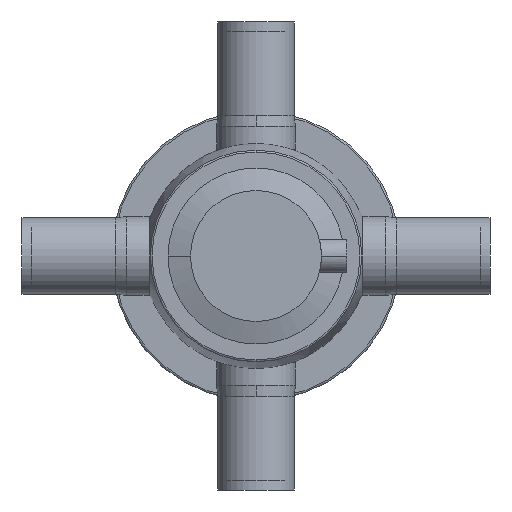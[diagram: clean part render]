
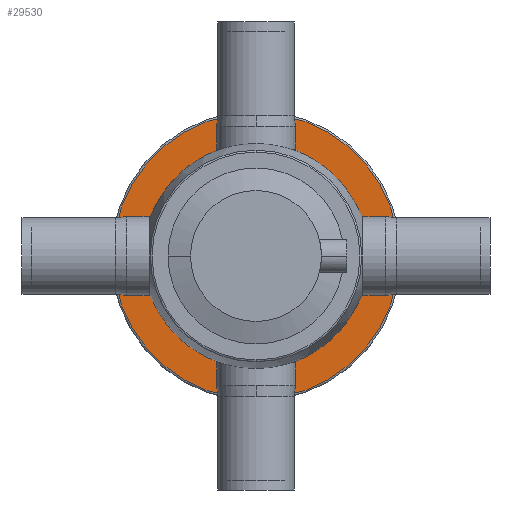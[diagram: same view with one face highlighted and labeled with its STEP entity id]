
A CAD part, front view. The second image highlights one B-rep face of the part: STEP entity #29530.
In plain terms, the highlighted planar face has unit normal (0, -1, 0).
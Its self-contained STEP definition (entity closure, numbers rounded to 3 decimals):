
#29030=CARTESIAN_POINT('',(-59.,-15.,0.)
);
#29040=VERTEX_POINT('',#29030);
#29140=CARTESIAN_POINT('',(59.,-15.,0.))
;
#29150=VERTEX_POINT('',#29140);
#29180=CARTESIAN_POINT('',(0.,-15.,
0.));
#29190=DIRECTION('',(0.,1.,0.));
#29200=DIRECTION('',(1.,0.,0.));
#29210=AXIS2_PLACEMENT_3D('',#29180,#29190,#29200);
#29220=CIRCLE('',#29210,59.);
#29230=EDGE_CURVE('',#29150,#29040,#29220,.T.);
#29280=CARTESIAN_POINT('',(66.7,-15.,0.)
);
#29290=DIRECTION('',(-0.,1.,0.));
#29300=DIRECTION('',(1.,0.,0.));
#29310=AXIS2_PLACEMENT_3D('',#29280,#29290,#29300);
#29320=PLANE('',#29310);
#29330=EDGE_CURVE('',#29040,#29150,#29220,.T.);
#29340=ORIENTED_EDGE('',*,*,#29330,.T.);
#29350=ORIENTED_EDGE('',*,*,#29230,.T.);
#29360=EDGE_LOOP('',(#29350,#29340));
#29370=FACE_BOUND('',#29360,.T.);
#29380=CARTESIAN_POINT('',(0.,-15.,
0.));
#29390=DIRECTION('',(0.,1.,0.));
#29400=DIRECTION('',(1.,0.,0.));
#29410=AXIS2_PLACEMENT_3D('',#29380,#29390,#29400);
#29420=CIRCLE('',#29410,76.5);
#29430=CARTESIAN_POINT('',(-76.5,-15.,0.
));
#29440=VERTEX_POINT('',#29430);
#29450=CARTESIAN_POINT('',(76.5,-15.,0.)
);
#29460=VERTEX_POINT('',#29450);
#29470=EDGE_CURVE('',#29440,#29460,#29420,.T.);
#29480=ORIENTED_EDGE('',*,*,#29470,.F.);
#29490=EDGE_CURVE('',#29460,#29440,#29420,.T.);
#29500=ORIENTED_EDGE('',*,*,#29490,.F.);
#29510=EDGE_LOOP('',(#29500,#29480));
#29520=FACE_OUTER_BOUND('',#29510,.T.);
#29530=ADVANCED_FACE('',(#29370,#29520),#29320,.F.);
